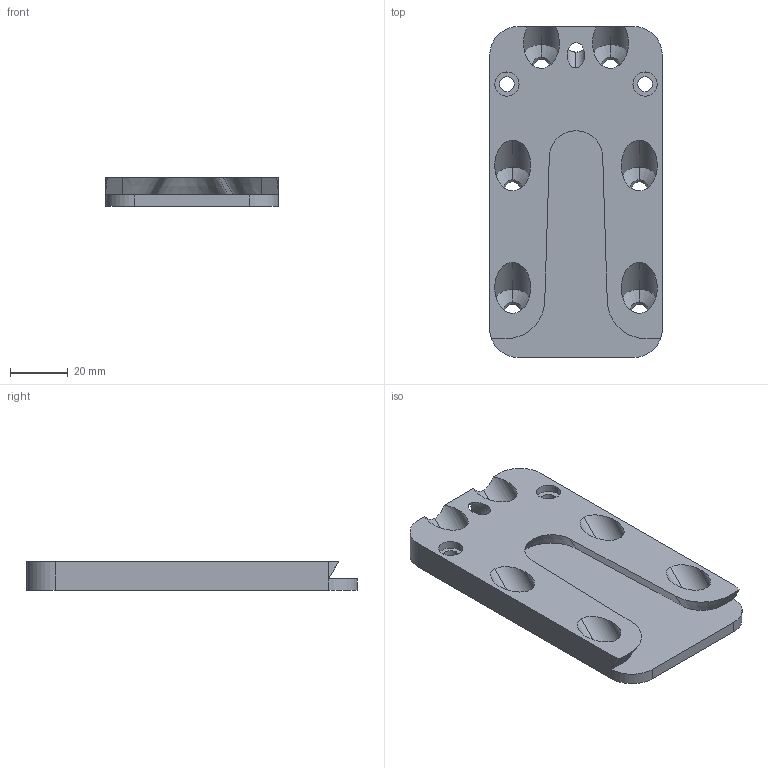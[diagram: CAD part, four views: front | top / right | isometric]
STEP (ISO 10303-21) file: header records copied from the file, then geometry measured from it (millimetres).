
FILE_DESCRIPTION (( 'STEP AP203' ), '1' );
FILE_NAME ('UV_40_NT_Holz.STEP', '2019-11-14T13:32:32', ( '' ), ( '' ), 'SwSTEP 2.0', 'SolidWorks 2013', '' );
FILE_SCHEMA (( 'CONFIG_CONTROL_DESIGN' ));
Length unit declared in the file: millimetre
Products named in the file (1): UV_40_NT_Holz
Bounding box: 60 x 115 x 10 mm (x, y, z)
Volume: 46522.5 mm3; surface area: 20373.4 mm2
Topology: 1 solids, 1 shells, 72 faces, 181 edges, 110 vertices
Faces by surface type: cylinder 42, cone 17, plane 13
Entity records: 2242 total; most frequent: CARTESIAN_POINT 472, ORIENTED_EDGE 362, DIRECTION 351, EDGE_CURVE 181, AXIS2_PLACEMENT_3D 133, VERTEX_POINT 110, EDGE_LOOP 89, VECTOR 85
